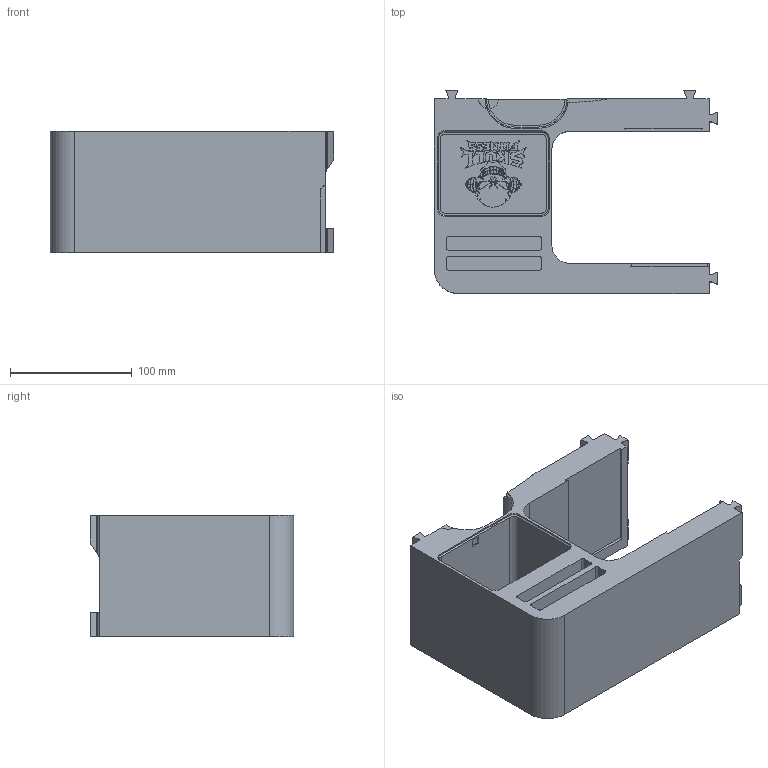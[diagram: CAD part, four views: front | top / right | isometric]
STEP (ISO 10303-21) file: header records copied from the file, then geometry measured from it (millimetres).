
FILE_DESCRIPTION(('Open CASCADE Model'),'2;1');
FILE_NAME('Open CASCADE Shape Model','2026-11-01T05:34:02',('Author'),( 'Open CASCADE'),'Open CASCADE STEP processor 7.8','Open CASCADE 7.8' ,'Unknown');
FILE_SCHEMA(('AUTOMOTIVE_DESIGN { 1 0 10303 214 1 1 1 1 }'));
Products named in the file (1): Open CASCADE STEP translator 7.8 3
Bounding box: 233.01 x 167.13 x 100 mm (x, y, z)
Volume: 1638098.2 mm3; surface area: 186379.4 mm2
Topology: 1 solids, 1 shells, 2128 faces, 6181 edges, 4116 vertices
Faces by surface type: plane 2079, cylinder 43, cone 6
Entity records: 149217 total; most frequent: CARTESIAN_POINT 25291, DIRECTION 22730, LINE 18216, VECTOR 18216, ORIENTED_EDGE 12362, PCURVE 12362, DEFINITIONAL_REPRESENTATION 12362, EDGE_CURVE 6181
